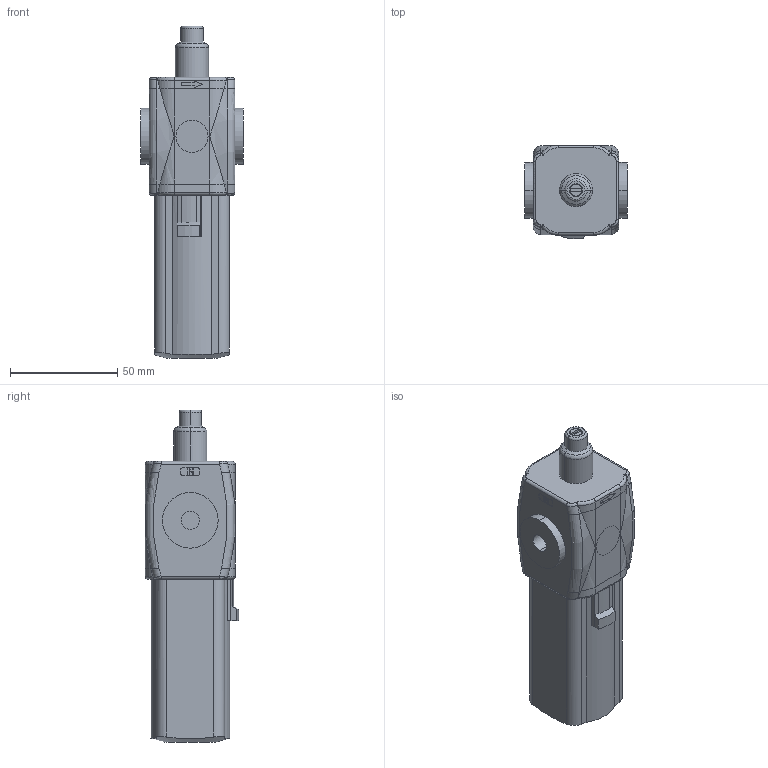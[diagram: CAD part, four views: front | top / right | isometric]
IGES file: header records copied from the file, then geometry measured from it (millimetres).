
Global section: file name: No Iges File Name specified; native system: Autodesk Inventor 2010; preprocessor: AutoDesk Inventor Iges Exporter R2010; author: valotma1; date: 20100823.141801; units: millimetre
Bounding box: 48 x 43.6 x 155 mm (x, y, z)
Volume: 184230.7 mm3; surface area: 23684 mm2
Topology: 2 solids, 2 shells, 228 faces, 556 edges, 350 vertices
Faces by surface type: plane 85, bspline 59, cylinder 47, torus 24, revolution 9, cone 4
